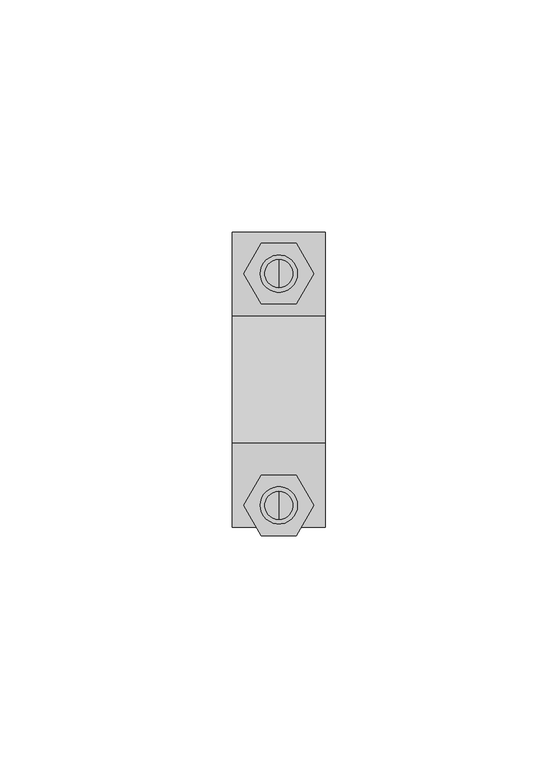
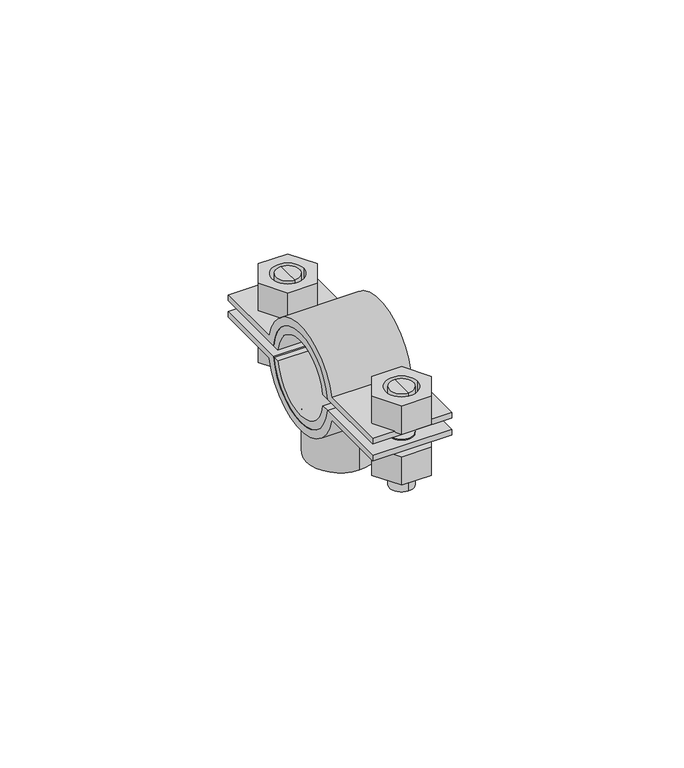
"""IFC4 building model written with IfcOpenShell, lengths in millimetres: valve geometry, Superfix DG2 Clamp Extra : Superfix DG2 Clamp Extra."""

from ifc_helpers import new_model, si_unit, point, frame, frame_2d, origin, origin_2d, place, context, project, spatial, polyline, circle_curve, trimmed, segment, composite_curve, outline, extrude, source, transform, mapped, element, save
from ifc_brep_helpers import plane_surface, cylinder_surface, advanced_brep


def valve_400a6949(model_context):
    return source(origin(), model_context, "Body", "SolidModel", [
        advanced_brep(
        [(0.0, 25.875, 334.4), (0.0, 19.875, 334.4), (0.0, 19.875, 348.5), (0.0, 25.875, 348.5), (0.0, 22.875, 334.4)],
        [
            (0, 1, circle_curve(frame((0.0, 22.875, 334.4), z_axis=(0.0, 0.0, 1.0), x_axis=(0.0, 1.0, 0.0)), 3.0)),
            (1, 2),
            (2, 3, circle_curve(frame((0.0, 22.875, 348.5), z_axis=(0.0, 0.0, -1.0), x_axis=(0.0, 1.0, 0.0)), 3.0)),
            (3, 0),
            (1, 0, circle_curve(frame((0.0, 22.875, 334.4), z_axis=(0.0, 0.0, 1.0), x_axis=(0.0, 1.0, 0.0)), 3.0)),
            (3, 2, circle_curve(frame((0.0, 22.875, 348.5), z_axis=(0.0, 0.0, -1.0), x_axis=(0.0, 1.0, 0.0)), 3.0)),
            (0, 4),
            (4, 1),
        ],
        [
            cylinder_surface(frame((0.0, 22.875, 348.2806094), z_axis=(0.0, 0.0, 1.0), x_axis=(0.0, 1.0, 0.0)), 3.0),
            plane_surface(frame((0.0, 22.875, 334.4), z_axis=(0.0, 0.0, -1.0), x_axis=(0.0, 1.0, 0.0))),
            plane_surface(frame((13.75, -31.75, 348.5), z_axis=(0.0, 0.0, 1.0), x_axis=(-1.0, 0.0, 0.0))),
        ],
        [
            (0, [[1, 2, 3, 4]]),
            (0, [[5, -4, 6, -2]]),
            (1, [[-1, 7, 8]]),
            (1, [[-5, -8, -7]]),
            (2, [[-3, -6]]),
        ],
    ),
        advanced_brep(
        [(0.0, 19.875, 360.6), (0.0, 25.875, 360.6), (0.0, 25.875, 351.5), (0.0, 19.875, 351.5), (0.0, 22.875, 360.6)],
        [
            (0, 1, circle_curve(frame((0.0, 22.875, 360.6), z_axis=(0.0, 0.0, -1.0), x_axis=(0.0, 1.0, 0.0)), 3.0)),
            (1, 2),
            (2, 3, circle_curve(frame((0.0, 22.875, 351.5), z_axis=(0.0, 0.0, 1.0), x_axis=(0.0, 1.0, 0.0)), 3.0)),
            (3, 0),
            (1, 0, circle_curve(frame((0.0, 22.875, 360.6), z_axis=(0.0, 0.0, -1.0), x_axis=(0.0, 1.0, 0.0)), 3.0)),
            (3, 2, circle_curve(frame((0.0, 22.875, 351.5), z_axis=(0.0, 0.0, 1.0), x_axis=(0.0, 1.0, 0.0)), 3.0)),
            (0, 4),
            (4, 1),
        ],
        [
            cylinder_surface(frame((0.0, 22.875, 348.2806094), z_axis=(0.0, 0.0, 1.0), x_axis=(0.0, 1.0, 0.0)), 3.0),
            plane_surface(frame((0.0, 22.875, 360.6), z_axis=(0.0, 0.0, 1.0), x_axis=(0.0, 1.0, 0.0))),
            plane_surface(frame((13.75, 31.75, 351.5), z_axis=(0.0, 0.0, -1.0), x_axis=(-1.0, 0.0, 0.0))),
        ],
        [
            (0, [[1, 2, 3, 4]]),
            (0, [[5, -4, 6, -2]]),
            (1, [[-1, 7, 8]]),
            (1, [[-5, -8, -7]]),
            (2, [[-3, -6]]),
        ],
    ),
        advanced_brep(
        [(0.0, -30.0, 360.6), (0.0, -24.0, 360.6), (0.0, -24.0, 351.5), (0.0, -30.0, 351.5), (0.0, -27.0, 360.6)],
        [
            (0, 1, circle_curve(frame((0.0, -27.0, 360.6), z_axis=(0.0, 0.0, -1.0), x_axis=(0.0, -1.0, 0.0)), 3.0)),
            (1, 2),
            (2, 3, circle_curve(frame((0.0, -27.0, 351.5), z_axis=(0.0, 0.0, 1.0), x_axis=(0.0, -1.0, 0.0)), 3.0)),
            (3, 0),
            (1, 0, circle_curve(frame((0.0, -27.0, 360.6), z_axis=(0.0, 0.0, -1.0), x_axis=(0.0, -1.0, 0.0)), 3.0)),
            (3, 2, circle_curve(frame((0.0, -27.0, 351.5), z_axis=(0.0, 0.0, 1.0), x_axis=(0.0, -1.0, 0.0)), 3.0)),
            (0, 4),
            (4, 1),
        ],
        [
            cylinder_surface(frame((0.0, -27.0, 348.2806094), z_axis=(0.0, 0.0, -1.0), x_axis=(0.0, -1.0, 0.0)), 3.0),
            plane_surface(frame((0.0, -27.0, 360.6), z_axis=(0.0, 0.0, 1.0), x_axis=(0.0, -1.0, 0.0))),
            plane_surface(frame((13.75, 31.75, 351.5), z_axis=(0.0, 0.0, -1.0), x_axis=(-1.0, 0.0, 0.0))),
        ],
        [
            (0, [[1, 2, 3, 4]]),
            (0, [[5, -4, 6, -2]]),
            (1, [[-1, 7, 8]]),
            (1, [[-5, -8, -7]]),
            (2, [[-3, -6]]),
        ],
    ),
        advanced_brep(
        [(0.0, -24.0, 334.4), (0.0, -30.0, 334.4), (0.0, -30.0, 348.5), (0.0, -24.0, 348.5), (0.0, -27.0, 334.4)],
        [
            (0, 1, circle_curve(frame((0.0, -27.0, 334.4), z_axis=(0.0, 0.0, 1.0), x_axis=(0.0, -1.0, 0.0)), 3.0)),
            (1, 2),
            (2, 3, circle_curve(frame((0.0, -27.0, 348.5), z_axis=(0.0, 0.0, -1.0), x_axis=(0.0, -1.0, 0.0)), 3.0)),
            (3, 0),
            (1, 0, circle_curve(frame((0.0, -27.0, 334.4), z_axis=(0.0, 0.0, 1.0), x_axis=(0.0, -1.0, 0.0)), 3.0)),
            (3, 2, circle_curve(frame((0.0, -27.0, 348.5), z_axis=(0.0, 0.0, -1.0), x_axis=(0.0, -1.0, 0.0)), 3.0)),
            (0, 4),
            (4, 1),
        ],
        [
            cylinder_surface(frame((0.0, -27.0, 348.2806094), z_axis=(0.0, 0.0, -1.0), x_axis=(0.0, -1.0, 0.0)), 3.0),
            plane_surface(frame((0.0, -27.0, 334.4), z_axis=(0.0, 0.0, -1.0), x_axis=(0.0, -1.0, 0.0))),
            plane_surface(frame((13.75, -31.75, 348.5), z_axis=(0.0, 0.0, 1.0), x_axis=(-1.0, 0.0, 0.0))),
        ],
        [
            (0, [[1, 2, 3, 4]]),
            (0, [[5, -4, 6, -2]]),
            (1, [[-1, 7, 8]]),
            (1, [[-5, -8, -7]]),
            (2, [[-3, -6]]),
        ],
    ),
        extrude(outline(composite_curve([segment(trimmed(circle_curve(frame_2d((0.0, 350.0)), 12.0), [point((-11.9058809, 348.5))], [point((11.9058809, 348.5))], True, "CARTESIAN"), True, "CONTINUOUS"), segment(polyline([(11.9058809, 348.5), (31.75, 348.5), (31.75, 347.0), (13.6747943, 347.0)]), True, "CONTINUOUS"), segment(trimmed(circle_curve(frame_2d((0.0, 350.0)), 14.0), [point((13.6747943, 347.0))], [point((-13.6747943, 347.0))], False, "CARTESIAN"), True, "CONTINUOUS"), segment(polyline([(-13.6747943, 347.0), (-31.75, 347.0), (-31.75, 348.5), (-11.9058809, 348.5)]), True, "CONTINUOUS")], self_intersect=False)), frame((-10.0, 0.0, 0.0), z_axis=(1.0, 0.0, 0.0), x_axis=(0.0, 1.0, 0.0)), (0.0, 0.0, 1.0), 20.0),
        extrude(outline(composite_curve([segment(trimmed(circle_curve(frame_2d((0.0, 350.0)), 12.0), [point((11.9058809, 351.5))], [point((-11.9058809, 351.5))], True, "CARTESIAN"), True, "CONTINUOUS"), segment(polyline([(-11.9058809, 351.5), (-31.75, 351.5), (-31.75, 353.0), (-13.6747943, 353.0)]), True, "CONTINUOUS"), segment(trimmed(circle_curve(frame_2d((0.0, 350.0)), 14.0), [point((-13.6747943, 353.0))], [point((13.6747943, 353.0))], False, "CARTESIAN"), True, "CONTINUOUS"), segment(polyline([(13.6747943, 353.0), (31.75, 353.0), (31.75, 351.5), (11.9058809, 351.5)]), True, "CONTINUOUS")], self_intersect=False)), frame((-10.0, 0.0, 0.0), z_axis=(1.0, 0.0, 0.0), x_axis=(0.0, 1.0, 0.0)), (0.0, 0.0, 1.0), 20.0),
        extrude(outline(polyline([(7.5055535, -27.0), (3.7527767, -33.5), (-3.7527767, -33.5), (-7.5055535, -27.0), (-3.7527767, -20.5), (3.7527767, -20.5), (7.5055535, -27.0)]), holes=[composite_curve([segment(trimmed(circle_curve(frame_2d((0.0, -27.0)), 4.0), [point((4.0, -27.0))], [point((-4.0, -27.0))], True, "CARTESIAN"), True, "CONTINUOUS"), segment(trimmed(circle_curve(frame_2d((0.0, -27.0)), 4.0), [point((-4.0, -27.0))], [point((4.0, -27.0))], True, "CARTESIAN"), True, "CONTINUOUS")], self_intersect=False)]), frame((0.0, 0.0, 353.0), z_axis=(0.0, 0.0, 1.0), x_axis=(1.0, 0.0, 0.0)), (0.0, 0.0, 1.0), 7.6),
        extrude(outline(polyline([(7.5055535, 22.875), (3.7527767, 16.375), (-3.7527767, 16.375), (-7.5055535, 22.875), (-3.7527767, 29.375), (3.7527767, 29.375), (7.5055535, 22.875)]), holes=[composite_curve([segment(trimmed(circle_curve(frame_2d((0.0, 22.875)), 4.0), [point((4.0, 22.875))], [point((-4.0, 22.875))], True, "CARTESIAN"), True, "CONTINUOUS"), segment(trimmed(circle_curve(frame_2d((0.0, 22.875)), 4.0), [point((-4.0, 22.875))], [point((4.0, 22.875))], True, "CARTESIAN"), True, "CONTINUOUS")], self_intersect=False)]), frame((0.0, 0.0, 353.0), z_axis=(0.0, 0.0, 1.0), x_axis=(1.0, 0.0, 0.0)), (0.0, 0.0, 1.0), 7.6),
        extrude(outline(polyline([(7.5055535, -27.0), (3.7527767, -33.5), (-3.7527767, -33.5), (-7.5055535, -27.0), (-3.7527767, -20.5), (3.7527767, -20.5), (7.5055535, -27.0)]), holes=[composite_curve([segment(trimmed(circle_curve(frame_2d((0.0, -27.0)), 4.0), [point((4.0, -27.0))], [point((-4.0, -27.0))], True, "CARTESIAN"), True, "CONTINUOUS"), segment(trimmed(circle_curve(frame_2d((0.0, -27.0)), 4.0), [point((-4.0, -27.0))], [point((4.0, -27.0))], True, "CARTESIAN"), True, "CONTINUOUS")], self_intersect=False)]), frame((0.0, 0.0, 339.4), z_axis=(0.0, 0.0, 1.0), x_axis=(1.0, 0.0, 0.0)), (0.0, 0.0, 1.0), 7.6),
        extrude(outline(polyline([(7.5055535, 22.875), (3.7527767, 16.375), (-3.7527767, 16.375), (-7.5055535, 22.875), (-3.7527767, 29.375), (3.7527767, 29.375), (7.5055535, 22.875)]), holes=[composite_curve([segment(trimmed(circle_curve(frame_2d((0.0, 22.875)), 4.0), [point((4.0, 22.875))], [point((-4.0, 22.875))], True, "CARTESIAN"), True, "CONTINUOUS"), segment(trimmed(circle_curve(frame_2d((0.0, 22.875)), 4.0), [point((-4.0, 22.875))], [point((4.0, 22.875))], True, "CARTESIAN"), True, "CONTINUOUS")], self_intersect=False)]), frame((0.0, 0.0, 339.4), z_axis=(0.0, 0.0, 1.0), x_axis=(1.0, 0.0, 0.0)), (0.0, 0.0, 1.0), 7.6),
        extrude(outline(composite_curve([segment(trimmed(circle_curve(origin_2d(), 8.5), [point((0.0, 8.5))], [point((0.0, -8.5))], False, "CARTESIAN"), True, "CONTINUOUS"), segment(trimmed(circle_curve(origin_2d(), 8.5), [point((0.0, -8.5))], [point((0.0, 8.5))], False, "CARTESIAN"), True, "CONTINUOUS")], self_intersect=False), holes=[composite_curve([segment(trimmed(circle_curve(origin_2d(), 5.0), [point((0.0, 5.0))], [point((0.0, -5.0))], True, "CARTESIAN"), True, "CONTINUOUS"), segment(trimmed(circle_curve(origin_2d(), 5.0), [point((0.0, -5.0))], [point((0.0, 5.0))], True, "CARTESIAN"), True, "CONTINUOUS")], self_intersect=False)]), frame((0.0, 0.0, 327.0), z_axis=(0.0, 0.0, 1.0), x_axis=(1.0, 0.0, 0.0)), (0.0, 0.0, 1.0), 11.5),
        extrude(outline(composite_curve([segment(trimmed(circle_curve(frame_2d((0.0, 350.0)), 10.0), [point((9.88686, 351.5))], [point((-9.88686, 351.5))], True, "CARTESIAN"), True, "CONTINUOUS"), segment(polyline([(-9.88686, 351.5), (-11.9058809, 351.5)]), True, "CONTINUOUS"), segment(trimmed(circle_curve(frame_2d((0.0, 350.0)), 12.0), [point((-11.9058809, 351.5))], [point((11.9058809, 351.5))], False, "CARTESIAN"), True, "CONTINUOUS"), segment(polyline([(11.9058809, 351.5), (9.88686, 351.5)]), True, "CONTINUOUS")], self_intersect=False)), frame((-10.0, 0.0, 0.0), z_axis=(1.0, 0.0, 0.0), x_axis=(0.0, 1.0, 0.0)), (0.0, 0.0, 1.0), 20.0),
        extrude(outline(composite_curve([segment(polyline([(9.88686, 348.5), (11.9058809, 348.5)]), True, "CONTINUOUS"), segment(trimmed(circle_curve(frame_2d((0.0, 350.0)), 12.0), [point((11.9058809, 348.5))], [point((-11.9058809, 348.5))], False, "CARTESIAN"), True, "CONTINUOUS"), segment(polyline([(-11.9058809, 348.5), (-9.88686, 348.5)]), True, "CONTINUOUS"), segment(trimmed(circle_curve(frame_2d((0.0, 350.0)), 10.0), [point((-9.88686, 348.5))], [point((9.88686, 348.5))], True, "CARTESIAN"), True, "CONTINUOUS")], self_intersect=False)), frame((-10.0, 0.0, 0.0), z_axis=(1.0, 0.0, 0.0), x_axis=(0.0, 1.0, 0.0)), (0.0, 0.0, 1.0), 20.0),
    ])


if __name__ == "__main__":
    model = new_model("IFC4")
    model_context = context("Model", 3, world=origin())
    ifc_project = project(units=[si_unit("LENGTHUNIT", "METRE", prefix="MILLI")], contexts=[model_context])
    site = spatial("IfcSite", under=ifc_project)
    building = spatial("IfcBuilding", under=site)
    placement = place(None, origin())
    valve_shape = valve_400a6949(model_context)
    element("IfcValve", 1, ObjectType="Superfix DG2 Clamp Extra : Superfix DG2 Clamp Extra", at=placement, inside=building, context=model_context, shape_type="MappedRepresentation", body=[
        mapped(valve_shape, transform((0.0, 0.0, 0.0), x_axis=(1.0, 0.0, 0.0), y_axis=(0.0, 1.0, 0.0), z_axis=(0.0, 0.0, 1.0))),
    ])
    save(model, "model.ifc")
